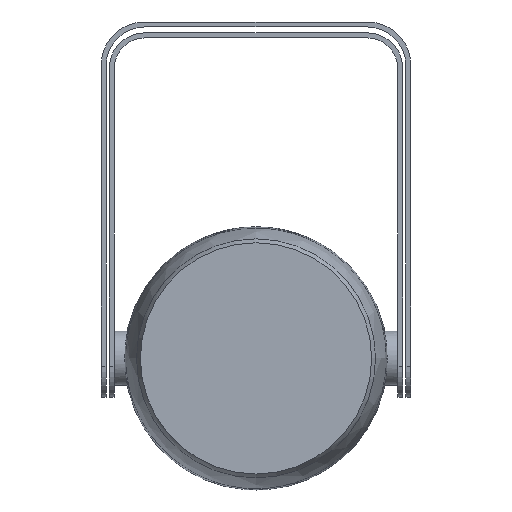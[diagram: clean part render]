
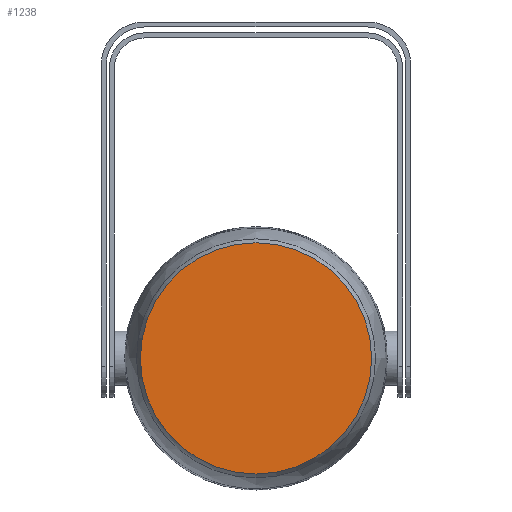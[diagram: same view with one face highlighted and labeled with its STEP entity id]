
A CAD part, front view. The second image highlights one B-rep face of the part: STEP entity #1238.
In plain terms, the highlighted planar face has unit normal (0, -1, 0).
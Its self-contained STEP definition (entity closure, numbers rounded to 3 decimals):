
#149=CIRCLE('',#1475,74.58);
#215=FACE_OUTER_BOUND('',#294,.T.);
#294=EDGE_LOOP('',(#1133));
#614=VERTEX_POINT('',#2501);
#786=EDGE_CURVE('',#614,#614,#149,.T.);
#1133=ORIENTED_EDGE('',*,*,#786,.T.);
#1172=PLANE('',#1476);
#1238=ADVANCED_FACE('',(#215),#1172,.T.);
#1475=AXIS2_PLACEMENT_3D('',#2502,#1841,#1842);
#1476=AXIS2_PLACEMENT_3D('',#2506,#1843,#1844);
#1841=DIRECTION('center_axis',(0.,-1.,0.));
#1842=DIRECTION('ref_axis',(1.,0.,0.));
#1843=DIRECTION('center_axis',(0.,-1.,0.));
#1844=DIRECTION('ref_axis',(0.,0.,-1.));
#2501=CARTESIAN_POINT('',(0.,-109.8,74.58));
#2502=CARTESIAN_POINT('Origin',(0.,-109.8,0.));
#2506=CARTESIAN_POINT('Origin',(0.,-109.8,0.));
